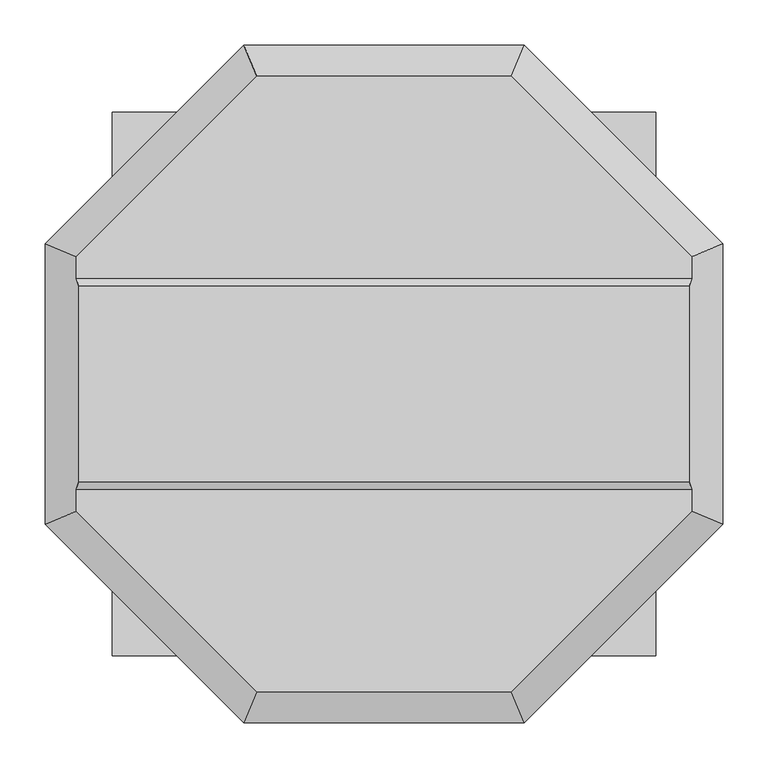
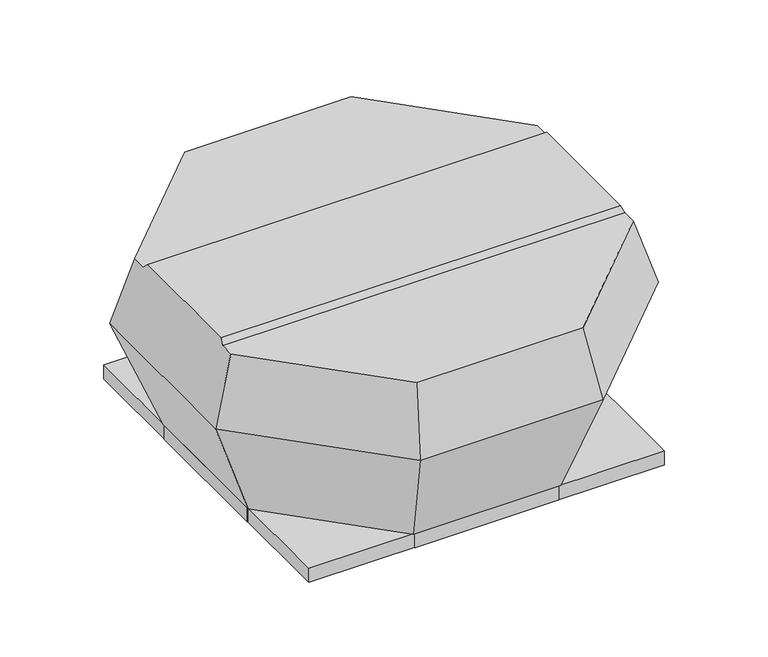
"""IFC4 building model written with IfcOpenShell, lengths in millimetres: unitary equipment geometry, VE-Wentylator-ParaForma-Harmann-VIVO-Wywiewny : 4-400/4300S."""

from ifc_helpers import new_model, si_unit, origin, place, context, project, spatial, faceted_brep, source, transform, mapped, element, save


def unitary_equipment_d4655c10(model_context):
    return source(origin(), model_context, "Body", "Brep", [
        faceted_brep([(336.1467848, -107.5, 309.5), (336.1467848, 107.5, 309.5), (-336.1467848, 107.5, 309.5), (-336.1467848, -107.5, 309.5), (338.7141628, 115.95, 301.0), (-338.7141628, 115.95, 301.0), (338.7141628, -115.95, 301.0), (-338.7141628, -115.95, 301.0), (140.3, -338.7141628, 301.0), (338.7141628, -140.3, 301.0), (-338.7141628, -140.3, 301.0), (-140.3, -338.7141628, 301.0), (338.7141628, 140.3, 301.0), (140.3, 338.7141628, 301.0), (-140.3, 338.7141628, 301.0), (-338.7141628, 140.3, 301.0), (154.4, -372.754574, 188.3), (372.754574, -154.4, 188.3), (372.754574, 154.4, 188.3), (154.4, 372.754574, 188.3), (-154.4, 372.754574, 188.3), (-372.754574, 154.4, 188.3), (-372.754574, -154.4, 188.3), (-154.4, -372.754574, 188.3), (124.3, -300.0867458, 1.5), (-124.3, -300.0867458, 1.5), (-300.0867458, -124.3, 1.5), (-300.0867458, 124.3, 1.5), (-124.3, 300.0867458, 1.5), (124.3, 300.0867458, 1.5), (300.0867458, 124.3, 1.5), (300.0867458, -124.3, 1.5)], [[[0, 1, 2, 3]], [[1, 4, 5, 2]], [[6, 0, 3, 7]], [[8, 9, 6, 7, 10, 11]], [[12, 13, 14, 15, 5, 4]], [[9, 8, 16, 17]], [[9, 17, 18, 12, 4, 1, 0, 6]], [[13, 12, 18, 19]], [[14, 13, 19, 20]], [[15, 14, 20, 21]], [[15, 21, 22, 10, 7, 3, 2, 5]], [[11, 10, 22, 23]], [[8, 11, 23, 16]], [[24, 25, 26, 27, 28, 29, 30, 31]], [[24, 31, 17, 16]], [[31, 30, 18, 17]], [[30, 29, 19, 18]], [[29, 28, 20, 19]], [[28, 27, 21, 20]], [[27, 26, 22, 21]], [[26, 25, 23, 22]], [[25, 24, 16, 23]]]),
        faceted_brep([(297.5, 297.5, -23.5), (297.5, 297.5, 0.0), (-297.5, 297.5, 0.0), (-297.5, 297.5, -23.5), (299.0, 299.0, 1.5), (299.0, 299.0, -23.5), (-299.0, 299.0, -23.5), (-299.0, 299.0, 1.5), (-297.5, -297.5, 0.0), (-297.5, -297.5, -23.5), (-299.0, -299.0, -23.5), (-299.0, -299.0, 1.5), (297.5, -297.5, 0.0), (297.5, -297.5, -23.5), (299.0, -299.0, -23.5), (299.0, -299.0, 1.5)], [[[0, 1, 2, 3]], [[4, 5, 6, 7]], [[3, 2, 8, 9]], [[7, 6, 10, 11]], [[9, 8, 12, 13]], [[11, 10, 14, 15]], [[13, 12, 1, 0]], [[5, 14, 10, 6], [3, 9, 13, 0]], [[15, 14, 5, 4]], [[7, 11, 15, 4]], [[1, 12, 8, 2]]]),
        faceted_brep([(-299.0, -121.3, -23.5), (-300.0, -121.3, -23.5), (-300.0, 121.3, -23.5), (-299.0, 121.3, -23.5), (-299.0, -121.3, 1.5), (-299.0, 121.3, 1.5), (-300.0, 121.3, 1.5), (-300.0, -121.3, 1.5)], [[[0, 1, 2, 3]], [[4, 5, 6, 7]], [[1, 0, 4, 7]], [[2, 1, 7, 6]], [[3, 2, 6, 5]], [[0, 3, 5, 4]]]),
        faceted_brep([(300.0, -121.3, -23.5), (299.0, -121.3, -23.5), (299.0, 121.3, -23.5), (300.0, 121.3, -23.5), (300.0, 121.3, 1.5), (299.0, 121.3, 1.5), (299.0, 5.0, 1.5), (299.0, -5.0, 1.5), (299.0, -121.3, 1.5), (300.0, -121.3, 1.5), (300.0, -5.0, 1.5), (300.0, 5.0, 1.5)], [[[0, 1, 2, 3]], [[4, 5, 6, 7, 8, 9, 10, 11]], [[1, 0, 9, 8]], [[2, 1, 8, 7, 6, 5]], [[3, 2, 5, 4]], [[0, 3, 4, 11, 10, 9]]]),
        faceted_brep([(121.3, 299.0, -23.5), (-121.3, 299.0, -23.5), (-121.3, 300.0, -23.5), (121.3, 300.0, -23.5), (121.3, 299.0, 1.5), (121.3, 300.0, 1.5), (-121.3, 300.0, 1.5), (-121.3, 299.0, 1.5)], [[[0, 1, 2, 3]], [[4, 5, 6, 7]], [[1, 0, 4, 7]], [[2, 1, 7, 6]], [[3, 2, 6, 5]], [[0, 3, 5, 4]]]),
        faceted_brep([(121.3, -300.0, -23.5), (-121.3, -300.0, -23.5), (-121.3, -299.0, -23.5), (121.3, -299.0, -23.5), (121.3, -300.0, 1.5), (121.3, -299.0, 1.5), (-121.3, -299.0, 1.5), (-121.3, -300.0, 1.5)], [[[0, 1, 2, 3]], [[4, 5, 6, 7]], [[1, 0, 4, 7]], [[2, 1, 7, 6]], [[3, 2, 6, 5]], [[0, 3, 5, 4]]]),
    ])


if __name__ == "__main__":
    model = new_model("IFC4")
    model_context = context("Model", 3, world=origin())
    ifc_project = project(units=[si_unit("LENGTHUNIT", "METRE", prefix="MILLI")], contexts=[model_context])
    site = spatial("IfcSite", under=ifc_project)
    building = spatial("IfcBuilding", under=site)
    placement = place(None, origin())
    unitary_equipment_shape = unitary_equipment_d4655c10(model_context)
    element("IfcUnitaryEquipment", 1, ObjectType="VE-Wentylator-ParaForma-Harmann-VIVO-Wywiewny : 4-400/4300S", at=placement, inside=building, context=model_context, shape_type="MappedRepresentation", body=[
        mapped(unitary_equipment_shape, transform((0.0, 0.0, 0.0), x_axis=(1.0, 0.0, 0.0), y_axis=(0.0, 1.0, 0.0), z_axis=(0.0, 0.0, 1.0))),
    ])
    save(model, "model.ifc")
